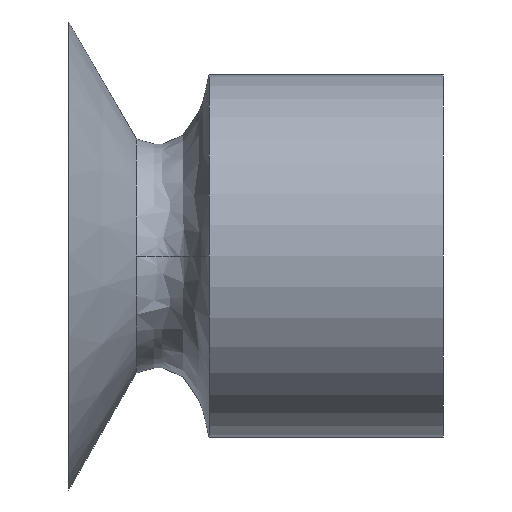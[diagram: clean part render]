
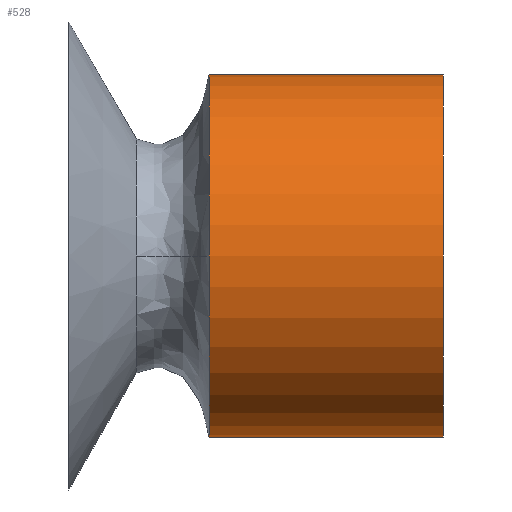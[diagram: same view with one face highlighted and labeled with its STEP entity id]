
A CAD part, front view. The second image highlights one B-rep face of the part: STEP entity #528.
In plain terms, the highlighted cylindrical face has radius 7.75 mm (diameter 15.5 mm), a partial arc.
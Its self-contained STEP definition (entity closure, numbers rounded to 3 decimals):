
#20 = VERTEX_POINT ( 'NONE', #184 ) ;
#24 = CARTESIAN_POINT ( 'NONE',  ( 6., 0., 7.75 ) ) ;
#48 = CARTESIAN_POINT ( 'NONE',  ( 16., 0., 7.75 ) ) ;
#52 = CARTESIAN_POINT ( 'NONE',  ( 16., 0., -7.75 ) ) ;
#56 = EDGE_CURVE ( 'NONE', #368, #405, #535, .T. ) ;
#61 = LINE ( 'NONE', #52, #344 ) ;
#62 = EDGE_CURVE ( 'NONE', #368, #127, #82, .T. ) ;
#63 = DIRECTION ( 'NONE',  ( 0., 0., 1. ) ) ;
#66 = DIRECTION ( 'NONE',  ( 1., 0., 0. ) ) ;
#71 = CARTESIAN_POINT ( 'NONE',  ( 16., 0., 0. ) ) ;
#76 = EDGE_CURVE ( 'NONE', #405, #20, #61, .T. ) ;
#78 = CYLINDRICAL_SURFACE ( 'NONE', #332, 7.75 ) ;
#82 = LINE ( 'NONE', #48, #292 ) ;
#94 = DIRECTION ( 'NONE',  ( -1., 0., 0. ) ) ;
#127 = VERTEX_POINT ( 'NONE', #24 ) ;
#140 = CIRCLE ( 'NONE', #220, 7.75 ) ;
#162 = ORIENTED_EDGE ( 'NONE', *, *, #257, .T. ) ;
#171 = CARTESIAN_POINT ( 'NONE',  ( 6., -7.75, 0. ) ) ;
#184 = CARTESIAN_POINT ( 'NONE',  ( 6., 0., -7.75 ) ) ;
#189 = AXIS2_PLACEMENT_3D ( 'NONE', #449, #413, #455 ) ;
#220 = AXIS2_PLACEMENT_3D ( 'NONE', #353, #361, #348 ) ;
#223 = CIRCLE ( 'NONE', #189, 7.75 ) ;
#242 = ORIENTED_EDGE ( 'NONE', *, *, #343, .F. ) ;
#257 = EDGE_CURVE ( 'NONE', #412, #20, #140, .T. ) ;
#284 = ORIENTED_EDGE ( 'NONE', *, *, #76, .F. ) ;
#292 = VECTOR ( 'NONE', #516, 1000. ) ;
#302 = EDGE_LOOP ( 'NONE', ( #284, #453, #492, #242, #162 ) ) ;
#307 = CARTESIAN_POINT ( 'NONE',  ( 16., 0., -7.75 ) ) ;
#332 = AXIS2_PLACEMENT_3D ( 'NONE', #355, #431, #489 ) ;
#343 = EDGE_CURVE ( 'NONE', #412, #127, #223, .T. ) ;
#344 = VECTOR ( 'NONE', #94, 1000. ) ;
#348 = DIRECTION ( 'NONE',  ( 0., 0., -1. ) ) ;
#353 = CARTESIAN_POINT ( 'NONE',  ( 6., 0., 0. ) ) ;
#355 = CARTESIAN_POINT ( 'NONE',  ( 16., 0., 0. ) ) ;
#361 = DIRECTION ( 'NONE',  ( 1., 0., 0. ) ) ;
#368 = VERTEX_POINT ( 'NONE', #389 ) ;
#389 = CARTESIAN_POINT ( 'NONE',  ( 16., 0., 7.75 ) ) ;
#405 = VERTEX_POINT ( 'NONE', #307 ) ;
#412 = VERTEX_POINT ( 'NONE', #171 ) ;
#413 = DIRECTION ( 'NONE',  ( -1., 0., 0. ) ) ;
#431 = DIRECTION ( 'NONE',  ( -1., 0., 0. ) ) ;
#449 = CARTESIAN_POINT ( 'NONE',  ( 6., 0., 0. ) ) ;
#453 = ORIENTED_EDGE ( 'NONE', *, *, #56, .F. ) ;
#455 = DIRECTION ( 'NONE',  ( 0., 0., 1. ) ) ;
#489 = DIRECTION ( 'NONE',  ( 0., 0., 1. ) ) ;
#492 = ORIENTED_EDGE ( 'NONE', *, *, #62, .T. ) ;
#493 = FACE_OUTER_BOUND ( 'NONE', #302, .T. ) ;
#516 = DIRECTION ( 'NONE',  ( -1., 0., 0. ) ) ;
#528 = ADVANCED_FACE ( 'NONE', ( #493 ), #78, .T. ) ;
#535 = CIRCLE ( 'NONE', #559, 7.75 ) ;
#559 = AXIS2_PLACEMENT_3D ( 'NONE', #71, #66, #63 ) ;
